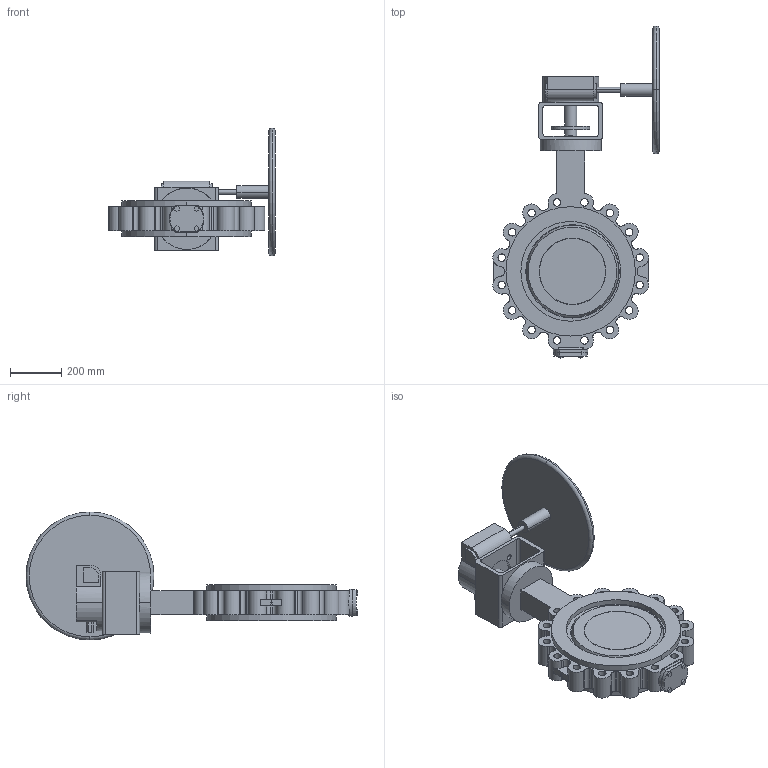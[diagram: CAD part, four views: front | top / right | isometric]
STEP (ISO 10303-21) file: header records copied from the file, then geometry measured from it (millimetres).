
FILE_DESCRIPTION( ( '' ), '1' );
FILE_NAME( 'F:/DE-SHS/TB/OR/04-Sonstiges/daten/Excel/mneugeba/018_ZETRIX-PN25_Getriebe-Rotork/c000006447.stp', '2016-09-19T06:35:37', ( '' ), ( '' ), ' ', ' ', ' ' );
FILE_SCHEMA( ( 'CONFIG_CONTROL_DESIGN' ) );
Length unit declared in the file: millimetre
Products named in the file (2): 1; 2
Bounding box: 650.65 x 1297.7 x 500 mm (x, y, z)
Volume: 39165006.7 mm3; surface area: 2378556.5 mm2
Topology: 2 solids, 2 shells, 362 faces, 989 edges, 659 vertices
Faces by surface type: cylinder 210, plane 140, sphere 4, cone 4, torus 4
Entity records: 12740 total; most frequent: CARTESIAN_POINT 2963, DIRECTION 2148, ORIENTED_EDGE 1978, EDGE_CURVE 989, AXIS2_PLACEMENT_3D 830, VERTEX_POINT 659, LINE 488, VECTOR 488
